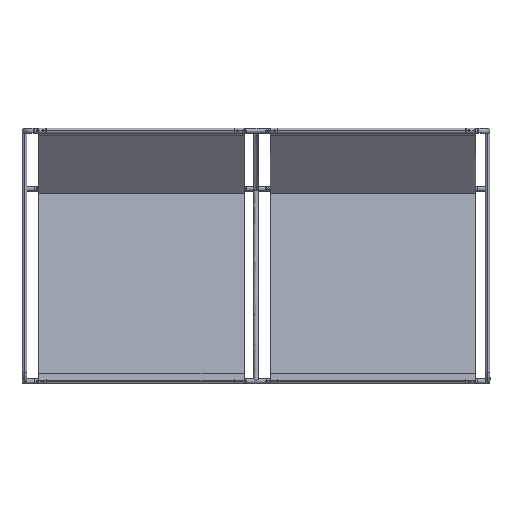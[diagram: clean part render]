
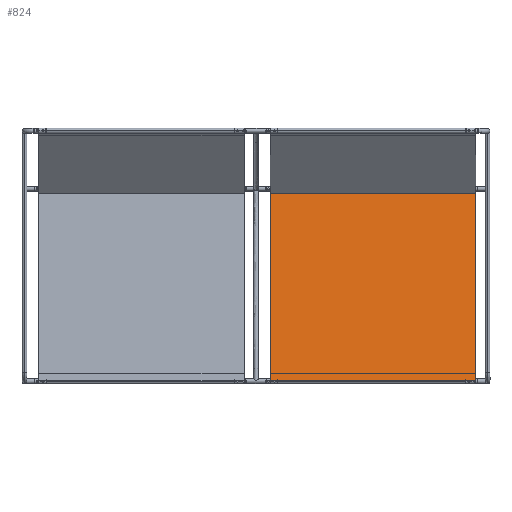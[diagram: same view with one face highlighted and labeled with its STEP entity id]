
A CAD part, top view. The second image highlights one B-rep face of the part: STEP entity #824.
In plain terms, the highlighted planar face has unit normal (0, -0.131, -0.991).
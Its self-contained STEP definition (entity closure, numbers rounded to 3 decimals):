
#243=B_SPLINE_CURVE_WITH_KNOTS('',1,(#7841,#7842),.UNSPECIFIED.,.F.,.F.,
(2,2),(85.432,741.692),.UNSPECIFIED.);
#244=B_SPLINE_CURVE_WITH_KNOTS('',1,(#7843,#7844),.UNSPECIFIED.,.F.,.F.,
(2,2),(0.,685.),.UNSPECIFIED.);
#245=B_SPLINE_CURVE_WITH_KNOTS('',1,(#7845,#7846),.UNSPECIFIED.,.F.,.F.,
(2,2),(85.432,741.692),.UNSPECIFIED.);
#824=ADVANCED_FACE('',(#1243),#6805,.T.);
#1243=FACE_OUTER_BOUND('',#1662,.T.);
#1662=EDGE_LOOP('',(#2214,#2215,#2216,#2217));
#2214=ORIENTED_EDGE('',*,*,#4301,.T.);
#2215=ORIENTED_EDGE('',*,*,#4302,.T.);
#2216=ORIENTED_EDGE('',*,*,#4303,.F.);
#2217=ORIENTED_EDGE('',*,*,#4299,.F.);
#4299=EDGE_CURVE('',#5942,#5943,#5378,.T.);
#4301=EDGE_CURVE('',#5942,#5944,#243,.T.);
#4302=EDGE_CURVE('',#5944,#5945,#244,.T.);
#4303=EDGE_CURVE('',#5943,#5945,#245,.T.);
#5378=(
BOUNDED_CURVE()
B_SPLINE_CURVE(1,(#7828,#7829),.UNSPECIFIED.,.F.,.F.)
B_SPLINE_CURVE_WITH_KNOTS((2,2),(0.,685.),.UNSPECIFIED.)
CURVE()
GEOMETRIC_REPRESENTATION_ITEM()
RATIONAL_B_SPLINE_CURVE((1.,1.))
REPRESENTATION_ITEM('')
);
#5942=VERTEX_POINT('',#7803);
#5943=VERTEX_POINT('',#7804);
#5944=VERTEX_POINT('',#7805);
#5945=VERTEX_POINT('',#7806);
#6805=PLANE('',#6951);
#6951=AXIS2_PLACEMENT_3D('',#7797,#7244,$);
#7244=DIRECTION('',(0.,-0.131,-0.991));
#7797=CARTESIAN_POINT('',(-2354.761,19.109,299.927));
#7803=CARTESIAN_POINT('',(-2354.761,19.109,299.927));
#7804=CARTESIAN_POINT('',(-1669.761,19.109,299.927));
#7805=CARTESIAN_POINT('',(-2354.761,643.545,217.445));
#7806=CARTESIAN_POINT('',(-1669.761,643.545,217.445));
#7828=CARTESIAN_POINT('',(-2354.761,19.109,299.927));
#7829=CARTESIAN_POINT('',(-1669.761,19.109,299.927));
#7841=CARTESIAN_POINT('',(-2354.761,19.109,299.927));
#7842=CARTESIAN_POINT('',(-2354.761,643.545,217.445));
#7843=CARTESIAN_POINT('',(-2354.761,643.545,217.445));
#7844=CARTESIAN_POINT('',(-1669.761,643.545,217.445));
#7845=CARTESIAN_POINT('',(-1669.761,19.109,299.927));
#7846=CARTESIAN_POINT('',(-1669.761,643.545,217.445));
